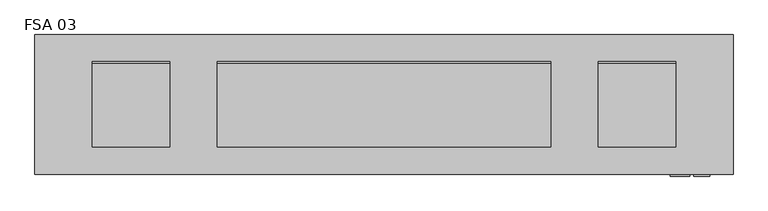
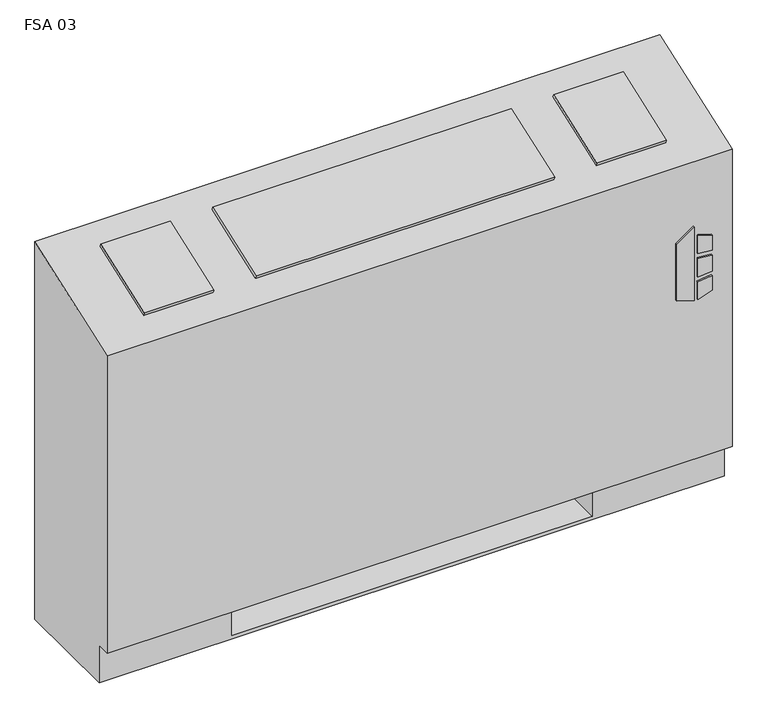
"""IFC4 building model written with IfcOpenShell, lengths in millimetres: proxy geometry, Vertical_Fan_Coil_Unit_-_FSA_-_IEC_-_2-Pipe_TS-FR_LH_2022 : FSA 03."""

from ifc_helpers import new_model, si_unit, point, frame, frame_2d, origin, place, context, project, spatial, polyline, circle_curve, trimmed, segment, composite_curve, outline, extrude, source, transform, mapped, element, save
from ifc_brep_helpers import plane_surface, revolved_surface, advanced_brep


def fsa_03_9eb38b45(model_context):
    return source(origin(), model_context, "Body", "SolidModel", [
        extrude(outline(polyline([(391.6086829, 620.7868862), (381.6606126, 652.9602728), (523.831537, 652.9602728), (500.8095309, 620.7868862), (391.6086829, 620.7868862)])), frame((0.0, 12.7, 0.0), z_axis=(0.0, 1.0, 0.0), x_axis=(0.0, 0.0, 1.0)), (0.0, 0.0, 1.0), 3.175),
        extrude(outline(polyline([(470.6079683, 659.7186058), (467.4055757, 685.8), (496.6344168, 685.8), (504.6988318, 659.7186058), (470.6079683, 659.7186058)])), frame((0.0, 12.7, 0.0), z_axis=(0.0, 1.0, 0.0), x_axis=(0.0, 0.0, 1.0)), (0.0, 0.0, 1.0), 3.175),
        extrude(outline(polyline([(418.7444414, 685.8), (415.0789404, 659.7186058), (381.6606126, 659.7186058), (390.2948498, 685.8), (418.7444414, 685.8)])), frame((0.0, 12.7, 0.0), z_axis=(0.0, 1.0, 0.0), x_axis=(0.0, 0.0, 1.0)), (0.0, 0.0, 1.0), 3.175),
        extrude(outline(polyline([(458.0596028, 685.8), (460.3414292, 659.7186058), (424.4038806, 659.7186058), (427.1451456, 685.8), (458.0596028, 685.8)])), frame((0.0, 12.7, 0.0), z_axis=(0.0, 1.0, 0.0), x_axis=(0.0, 0.0, 1.0)), (0.0, 0.0, 1.0), 3.175),
        extrude(outline(polyline([(603.25, 223.266), (603.25, 81.534), (482.6, 81.534), (482.6, 223.266), (603.25, 223.266)])), frame((0.0, 0.0, 327.025), z_axis=(0.0, 0.0, 1.0), x_axis=(1.0, 0.0, 0.0)), (0.0, 0.0, 1.0), 260.35),
        extrude(outline(composite_curve([segment(trimmed(circle_curve(frame_2d((-241.3, 130.175)), 9.525), [point((-250.825, 130.175))], [point((-231.775, 130.175))], False, "CARTESIAN"), True, "CONTINUOUS"), segment(trimmed(circle_curve(frame_2d((-241.3, 130.175)), 9.525), [point((-231.775, 130.175))], [point((-250.825, 130.175))], False, "CARTESIAN"), True, "CONTINUOUS")], self_intersect=False)), frame((0.0, 0.0, 101.6), z_axis=(0.0, 0.0, 1.0), x_axis=(1.0, 0.0, 0.0)), (0.0, 0.0, 1.0), 25.4),
        extrude(outline(polyline([(-342.9, 63.5), (-342.9, 196.85), (-177.8, 196.85), (-177.8, 63.5), (-342.9, 63.5)])), frame((0.0, 0.0, 127.0), z_axis=(0.0, 0.0, 1.0), x_axis=(1.0, 0.0, 0.0)), (0.0, 0.0, 1.0), 50.8),
        extrude(outline(polyline([(0.0, -146.0500001), (0.0, 0.0), (127.0, 0.0), (127.0, -146.0500001), (0.0, -146.0500001)])), frame((-324.993, 200.4217127, 714.3418685), z_axis=(0.0, -0.3396444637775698, 0.9405538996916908), x_axis=(1.0, 0.0, 0.0)), (0.0, 0.0, 1.0), 6.35),
        extrude(outline(polyline([(0.0, -146.0500001), (0.0, 0.0), (546.1, 0.0), (546.1, -146.0500001), (0.0, -146.0500001)])), frame((425.45, 63.0538156, 664.7367945), z_axis=(0.0, -0.33964446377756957, 0.9405538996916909), x_axis=(-1.0, 0.0, 0.0)), (0.0, 0.0, 1.0), 6.35),
        extrude(outline(polyline([(0.0, -146.0500001), (0.0, 0.0), (127.0, 0.0), (127.0, -146.0500001), (0.0, -146.0500001)])), frame((629.793, 63.0538156, 664.7367945), z_axis=(0.0, -0.3396444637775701, 0.9405538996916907), x_axis=(-1.0, 0.0, 0.0)), (0.0, 0.0, 1.0), 6.35),
        extrude(outline(composite_curve([segment(trimmed(circle_curve(frame_2d((109.347, 456.819)), 7.9375), [point((109.347, 464.7565))], [point((109.347, 448.8815))], False, "CARTESIAN"), True, "CONTINUOUS"), segment(trimmed(circle_curve(frame_2d((109.347, 456.819)), 7.9375), [point((109.347, 448.8815))], [point((109.347, 464.7565))], False, "CARTESIAN"), True, "CONTINUOUS")], self_intersect=False)), frame((-228.6, 0.0, 0.0), z_axis=(1.0, 0.0, 0.0), x_axis=(0.0, 1.0, 0.0)), (0.0, 0.0, 1.0), 50.8),
        extrude(outline(composite_curve([segment(trimmed(circle_curve(frame_2d((157.4546, 429.4632)), 7.9375), [point((157.4546, 437.4007))], [point((157.4546, 421.5257))], False, "CARTESIAN"), True, "CONTINUOUS"), segment(trimmed(circle_curve(frame_2d((157.4546, 429.4632)), 7.9375), [point((157.4546, 421.5257))], [point((157.4546, 437.4007))], False, "CARTESIAN"), True, "CONTINUOUS")], self_intersect=False)), frame((-228.6, 0.0, 0.0), z_axis=(1.0, 0.0, 0.0), x_axis=(0.0, 1.0, 0.0)), (0.0, 0.0, 1.0), 50.8),
        advanced_brep(
        [(-419.1, 244.475, 0.0), (723.9, 244.475, 0.0), (723.9, 41.275, 0.0), (-419.1, 41.275, 0.0), (-419.1, 244.475, 730.25), (723.9, 244.475, 730.25), (482.6, 244.475, 73.025), (711.2, 244.475, 73.025), (711.2, 244.475, 654.05), (482.6, 244.475, 654.05), (482.6, 244.475, 414.8650565), (511.175, 244.475, 414.8650565), (511.175, 244.475, 385.2349435), (482.6, 244.475, 385.2349435), (482.6, 244.475, 287.3375), (511.175, 244.475, 287.3375), (511.175, 244.475, 258.7625), (482.6, 244.475, 258.7625), (482.6, 244.475, 141.2875), (511.175, 244.475, 141.2875), (511.175, 244.475, 112.7125), (482.6, 244.475, 112.7125), (-177.8, 244.475, 654.05), (-406.4, 244.475, 654.05), (-406.4, 244.475, 73.025), (-177.8, 244.475, 73.025), (-177.8, 244.475, 112.7125), (-206.375, 244.475, 112.7125), (-206.375, 244.475, 141.2875), (-177.8, 244.475, 141.2875), (-177.8, 244.475, 258.7625), (-206.375, 244.475, 258.7625), (-206.375, 244.475, 287.3375), (-177.8, 244.475, 287.3375), (-177.8, 244.475, 385.2349435), (-206.375, 244.475, 385.2349435), (-206.375, 244.475, 414.8650565), (-177.8, 244.475, 414.8650565), (500.8626, 244.475, 127.0), (489.7374, 244.475, 127.0), (500.8626, 244.475, 400.05), (489.7374, 244.475, 400.05), (500.8626, 244.475, 273.05), (489.7374, 244.475, 273.05), (-184.9374, 244.475, 127.0), (-196.0626, 244.475, 127.0), (-184.9374, 244.475, 273.05), (-196.0626, 244.475, 273.05), (-184.9374, 244.475, 400.05), (-196.0626, 244.475, 400.05), (-419.1, 41.275, 73.025), (-419.1, 15.875, 73.025), (-419.1, 15.875, 647.7), (723.9, 15.875, 73.025), (723.9, 15.875, 647.7), (723.9, 41.275, 73.025), (-177.8, 41.275, 73.025), (-177.8, 225.425, 73.025), (482.6, 225.425, 73.025), (482.6, 41.275, 73.025), (482.6, 41.275, 6.35), (-177.8, 41.275, 6.35), (482.6, 41.275, 654.05), (711.2, 41.275, 654.05), (711.2, 41.275, 73.025), (482.6, 41.275, 73.025), (-177.8, 41.275, 654.05), (-177.8, 41.275, 73.025), (-406.4, 41.275, 73.025), (-406.4, 41.275, 654.05), (482.6, 225.425, 73.025), (482.6, 238.125, 112.7125), (482.6, 238.125, 141.2875), (482.6, 238.125, 258.7625), (482.6, 238.125, 287.3375), (482.6, 238.125, 385.2349435), (482.6, 238.125, 414.8650565), (-177.8, 225.425, 73.025), (-177.8, 238.125, 414.8650565), (-177.8, 238.125, 385.2349435), (-177.8, 238.125, 287.3375), (-177.8, 238.125, 258.7625), (-177.8, 238.125, 141.2875), (-177.8, 238.125, 112.7125), (-177.8, 225.425, 6.35), (482.6, 225.425, 6.35), (511.175, 238.125, 112.7125), (511.175, 238.125, 141.2875), (489.7374, 238.125, 127.0), (500.8626, 238.125, 127.0), (511.175, 238.125, 258.7625), (511.175, 238.125, 287.3375), (489.7374, 238.125, 273.05), (500.8626, 238.125, 273.05), (511.175, 238.125, 385.2349435), (511.175, 238.125, 414.8650565), (489.7374, 238.125, 400.05), (500.8626, 238.125, 400.05), (-206.375, 238.125, 141.2875), (-206.375, 238.125, 112.7125), (-196.0626, 238.125, 127.0), (-184.9374, 238.125, 127.0), (-206.375, 238.125, 287.3375), (-206.375, 238.125, 258.7625), (-196.0626, 238.125, 273.05), (-184.9374, 238.125, 273.05), (-206.375, 238.125, 414.8650565), (-206.375, 238.125, 385.2349435), (-196.0626, 238.125, 400.05), (-184.9374, 238.125, 400.05)],
        [
            (0, 1),
            (1, 2),
            (2, 3),
            (3, 0),
            (0, 4),
            (4, 5),
            (5, 1),
            (6, 7),
            (7, 8),
            (8, 9),
            (9, 10),
            (10, 11),
            (11, 12),
            (12, 13),
            (13, 14),
            (14, 15),
            (15, 16),
            (16, 17),
            (17, 18),
            (18, 19),
            (19, 20),
            (20, 21),
            (21, 6),
            (22, 23),
            (23, 24),
            (24, 25),
            (25, 26),
            (26, 27),
            (27, 28),
            (28, 29),
            (29, 30),
            (30, 31),
            (31, 32),
            (32, 33),
            (33, 34),
            (34, 35),
            (35, 36),
            (36, 37),
            (37, 22),
            (38, 39, circle_curve(frame((495.3, 244.475, 127.0), z_axis=(0.0, -1.0, 0.0), x_axis=(-1.0, 0.0, 0.0)), 5.5626)),
            (39, 38, circle_curve(frame((495.3, 244.475, 127.0), z_axis=(0.0, -1.0, 0.0), x_axis=(-1.0, 0.0, 0.0)), 5.5626)),
            (40, 41, circle_curve(frame((495.3, 244.475, 400.05), z_axis=(0.0, -1.0, 0.0), x_axis=(-1.0, 0.0, 0.0)), 5.5626)),
            (41, 40, circle_curve(frame((495.3, 244.475, 400.05), z_axis=(0.0, -1.0, 0.0), x_axis=(-1.0, 0.0, 0.0)), 5.5626)),
            (42, 43, circle_curve(frame((495.3, 244.475, 273.05), z_axis=(0.0, -1.0, 0.0), x_axis=(-1.0, 0.0, 0.0)), 5.5626)),
            (43, 42, circle_curve(frame((495.3, 244.475, 273.05), z_axis=(0.0, -1.0, 0.0), x_axis=(-1.0, 0.0, 0.0)), 5.5626)),
            (44, 45, circle_curve(frame((-190.5, 244.475, 127.0), z_axis=(0.0, -1.0, 0.0), x_axis=(-1.0, 0.0, 0.0)), 5.5626)),
            (45, 44, circle_curve(frame((-190.5, 244.475, 127.0), z_axis=(0.0, -1.0, 0.0), x_axis=(-1.0, 0.0, 0.0)), 5.5626)),
            (46, 47, circle_curve(frame((-190.5, 244.475, 273.05), z_axis=(0.0, -1.0, 0.0), x_axis=(-1.0, 0.0, 0.0)), 5.5626)),
            (47, 46, circle_curve(frame((-190.5, 244.475, 273.05), z_axis=(0.0, -1.0, 0.0), x_axis=(-1.0, 0.0, 0.0)), 5.5626)),
            (48, 49, circle_curve(frame((-190.5, 244.475, 400.05), z_axis=(0.0, -1.0, 0.0), x_axis=(-1.0, 0.0, 0.0)), 5.5626)),
            (49, 48, circle_curve(frame((-190.5, 244.475, 400.05), z_axis=(0.0, -1.0, 0.0), x_axis=(-1.0, 0.0, 0.0)), 5.5626)),
            (3, 50),
            (50, 51),
            (51, 52),
            (52, 4),
            (51, 53),
            (53, 54),
            (54, 52),
            (5, 54),
            (53, 55),
            (55, 2),
            (50, 56),
            (56, 57),
            (57, 58),
            (58, 59),
            (59, 55),
            (59, 60),
            (60, 61),
            (61, 56),
            (62, 63),
            (63, 64),
            (64, 65),
            (65, 62),
            (66, 67),
            (67, 68),
            (68, 69),
            (69, 66),
            (65, 70),
            (70, 6),
            (21, 71),
            (71, 72),
            (72, 18),
            (17, 73),
            (73, 74),
            (74, 14),
            (13, 75),
            (75, 76),
            (76, 10),
            (9, 62),
            (64, 7),
            (63, 8),
            (69, 23),
            (22, 66),
            (68, 24),
            (67, 77),
            (77, 25),
            (37, 78),
            (78, 79),
            (79, 34),
            (33, 80),
            (80, 81),
            (81, 30),
            (29, 82),
            (82, 83),
            (83, 26),
            (57, 84),
            (84, 85),
            (85, 58),
            (85, 60),
            (84, 61),
            (71, 86),
            (86, 87),
            (87, 72),
            (88, 89, circle_curve(frame((495.3, 238.125, 127.0), z_axis=(0.0, 1.0, 0.0), x_axis=(-1.0, 0.0, 0.0)), 5.5626)),
            (89, 88, circle_curve(frame((495.3, 238.125, 127.0), z_axis=(0.0, 1.0, 0.0), x_axis=(-1.0, 0.0, 0.0)), 5.5626)),
            (73, 90),
            (90, 91),
            (91, 74),
            (92, 93, circle_curve(frame((495.3, 238.125, 273.05), z_axis=(0.0, 1.0, 0.0), x_axis=(-1.0, 0.0, 0.0)), 5.5626)),
            (93, 92, circle_curve(frame((495.3, 238.125, 273.05), z_axis=(0.0, 1.0, 0.0), x_axis=(-1.0, 0.0, 0.0)), 5.5626)),
            (75, 94),
            (94, 95),
            (95, 76),
            (96, 97, circle_curve(frame((495.3, 238.125, 400.05), z_axis=(0.0, 1.0, 0.0), x_axis=(-1.0, 0.0, 0.0)), 5.5626)),
            (97, 96, circle_curve(frame((495.3, 238.125, 400.05), z_axis=(0.0, 1.0, 0.0), x_axis=(-1.0, 0.0, 0.0)), 5.5626)),
            (98, 99),
            (99, 83),
            (82, 98),
            (100, 101, circle_curve(frame((-190.5, 238.125, 127.0), z_axis=(0.0, 1.0, 0.0), x_axis=(-1.0, 0.0, 0.0)), 5.5626)),
            (101, 100, circle_curve(frame((-190.5, 238.125, 127.0), z_axis=(0.0, 1.0, 0.0), x_axis=(-1.0, 0.0, 0.0)), 5.5626)),
            (102, 103),
            (103, 81),
            (80, 102),
            (104, 105, circle_curve(frame((-190.5, 238.125, 273.05), z_axis=(0.0, 1.0, 0.0), x_axis=(-1.0, 0.0, 0.0)), 5.5626)),
            (105, 104, circle_curve(frame((-190.5, 238.125, 273.05), z_axis=(0.0, 1.0, 0.0), x_axis=(-1.0, 0.0, 0.0)), 5.5626)),
            (106, 107),
            (107, 79),
            (78, 106),
            (108, 109, circle_curve(frame((-190.5, 238.125, 400.05), z_axis=(0.0, 1.0, 0.0), x_axis=(-1.0, 0.0, 0.0)), 5.5626)),
            (109, 108, circle_curve(frame((-190.5, 238.125, 400.05), z_axis=(0.0, 1.0, 0.0), x_axis=(-1.0, 0.0, 0.0)), 5.5626)),
            (87, 19),
            (86, 20),
            (91, 15),
            (90, 16),
            (95, 11),
            (94, 12),
            (28, 98),
            (99, 27),
            (32, 102),
            (103, 31),
            (36, 106),
            (107, 35),
            (88, 39),
            (38, 89),
            (96, 41),
            (40, 97),
            (92, 43),
            (42, 93),
            (100, 45),
            (44, 101),
            (104, 47),
            (46, 105),
            (108, 49),
            (48, 109),
        ],
        [
            plane_surface(frame((-419.1, 244.475, 0.0), z_axis=(0.0, 0.0, -1.0), x_axis=(1.0, 0.0, 0.0))),
            plane_surface(frame((723.9, 244.475, 730.25), z_axis=(0.0, 1.0, 0.0), x_axis=(0.0, 0.0, -1.0))),
            plane_surface(frame((-419.1, 244.475, 730.25), z_axis=(-1.0, 0.0, 0.0), x_axis=(0.0, 0.0, -1.0))),
            plane_surface(frame((-419.1, 15.875, 730.25), z_axis=(0.0, -1.0, 0.0), x_axis=(0.0, 0.0, -1.0))),
            plane_surface(frame((723.9, 15.875, 730.25), z_axis=(1.0, 0.0, 0.0), x_axis=(0.0, 0.0, -1.0))),
            plane_surface(frame((-419.1, 15.875, 73.025), z_axis=(0.0, 0.0, -1.0), x_axis=(1.0, 0.0, 0.0))),
            plane_surface(frame((-419.1, 41.275, 73.025), z_axis=(0.0, -1.0, 0.0), x_axis=(1.0, 0.0, 0.0))),
            plane_surface(frame((482.6, 41.275, 654.05), z_axis=(0.0, 1.0, 0.0), x_axis=(0.0, 0.0, -1.0))),
            plane_surface(frame((482.6, 41.275, 654.05), z_axis=(1.0, 0.0, 0.0), x_axis=(0.0, 1.0, 0.0))),
            plane_surface(frame((482.6, 41.275, 73.025), z_axis=(0.0, 0.0, 1.0), x_axis=(0.0, 1.0, 0.0))),
            plane_surface(frame((711.2, 41.275, 73.025), z_axis=(-1.0, 0.0, 0.0), x_axis=(0.0, 1.0, 0.0))),
            plane_surface(frame((711.2, 41.275, 654.05), z_axis=(0.0, 0.0, -1.0), x_axis=(0.0, 1.0, 0.0))),
            plane_surface(frame((-177.8, 41.275, 654.05), z_axis=(0.0, 0.0, -1.0), x_axis=(0.0, 1.0, 0.0))),
            plane_surface(frame((-406.4, 41.275, 654.05), z_axis=(1.0, 0.0, 0.0), x_axis=(0.0, 1.0, 0.0))),
            plane_surface(frame((-406.4, 41.275, 73.025), z_axis=(0.0, 0.0, 1.0), x_axis=(0.0, 1.0, 0.0))),
            plane_surface(frame((-177.8, 41.275, 73.025), z_axis=(-1.0, 0.0, 0.0), x_axis=(0.0, 1.0, 0.0))),
            plane_surface(frame((482.6, 225.425, 73.025), z_axis=(0.0, -1.0, 0.0), x_axis=(0.0, 0.0, -1.0))),
            plane_surface(frame((482.6, 225.425, 73.025), z_axis=(-1.0, 0.0, 0.0), x_axis=(0.0, -1.0, 0.0))),
            plane_surface(frame((482.6, 225.425, 6.35), z_axis=(0.0, 0.0, 1.0), x_axis=(0.0, -1.0, 0.0))),
            plane_surface(frame((-177.8, 225.425, 6.35), z_axis=(1.0, 0.0, 0.0), x_axis=(0.0, -1.0, 0.0))),
            plane_surface(frame((511.175, 238.125, 141.2875), z_axis=(0.0, -1.0, 0.0), x_axis=(-1.0, 0.0, 0.0))),
            plane_surface(frame((482.6, 244.475, 141.2875), z_axis=(0.0, 0.0, 1.0), x_axis=(0.0, -1.0, 0.0))),
            plane_surface(frame((511.175, 244.475, 141.2875), z_axis=(1.0, 0.0, 0.0), x_axis=(0.0, -1.0, 0.0))),
            plane_surface(frame((511.175, 244.475, 112.7125), z_axis=(0.0, 0.0, -1.0), x_axis=(0.0, -1.0, 0.0))),
            plane_surface(frame((482.6, 244.475, 287.3375), z_axis=(0.0, 0.0, 1.0), x_axis=(0.0, -1.0, 0.0))),
            plane_surface(frame((511.175, 244.475, 287.3375), z_axis=(1.0, 0.0, 0.0), x_axis=(0.0, -1.0, 0.0))),
            plane_surface(frame((511.175, 244.475, 258.7625), z_axis=(0.0, 0.0, -1.0), x_axis=(0.0, -1.0, 0.0))),
            plane_surface(frame((482.6, 244.475, 414.8650565), z_axis=(0.0, 0.0, 1.0), x_axis=(0.0, -1.0, 0.0))),
            plane_surface(frame((511.175, 244.475, 414.8650565), z_axis=(1.0, 0.0, 0.0), x_axis=(0.0, -1.0, 0.0))),
            plane_surface(frame((511.175, 244.475, 385.2349435), z_axis=(0.0, 0.0, -1.0), x_axis=(0.0, -1.0, 0.0))),
            plane_surface(frame((-206.375, 244.475, 141.2875), z_axis=(0.0, 0.0, 1.0), x_axis=(0.0, -1.0, 0.0))),
            plane_surface(frame((-177.8, 244.475, 112.7125), z_axis=(0.0, 0.0, -1.0), x_axis=(0.0, -1.0, 0.0))),
            plane_surface(frame((-206.375, 244.475, 112.7125), z_axis=(-1.0, 0.0, 0.0), x_axis=(0.0, -1.0, 0.0))),
            plane_surface(frame((-206.375, 244.475, 287.3375), z_axis=(0.0, 0.0, 1.0), x_axis=(0.0, -1.0, 0.0))),
            plane_surface(frame((-177.8, 244.475, 258.7625), z_axis=(0.0, 0.0, -1.0), x_axis=(0.0, -1.0, 0.0))),
            plane_surface(frame((-206.375, 244.475, 258.7625), z_axis=(-1.0, 0.0, 0.0), x_axis=(0.0, -1.0, 0.0))),
            plane_surface(frame((-206.375, 244.475, 414.8650565), z_axis=(0.0, 0.0, 1.0), x_axis=(0.0, -1.0, 0.0))),
            plane_surface(frame((-177.8, 244.475, 385.2349435), z_axis=(0.0, 0.0, -1.0), x_axis=(0.0, -1.0, 0.0))),
            plane_surface(frame((-206.375, 244.475, 385.2349435), z_axis=(-1.0, 0.0, 0.0), x_axis=(0.0, -1.0, 0.0))),
            revolved_surface(polyline([(489.73740000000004, 238.125, 127.0), (489.73740000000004, 244.475, 127.0)]), (495.3, 244.475, 127.0), (0.0, -1.0, 0.0)),
            revolved_surface(polyline([(489.73740000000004, 238.125, 400.05), (489.73740000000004, 244.475, 400.05)]), (495.3, 244.475, 400.05), (0.0, -1.0, 0.0)),
            revolved_surface(polyline([(489.73740000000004, 238.125, 273.05), (489.73740000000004, 244.475, 273.05)]), (495.3, 244.475, 273.05), (0.0, -1.0, 0.0)),
            revolved_surface(polyline([(-196.0626, 238.125, 127.0), (-196.0626, 244.475, 127.0)]), (-190.5, 244.475, 127.0), (0.0, -1.0, 0.0)),
            revolved_surface(polyline([(-196.0626, 238.125, 273.05), (-196.0626, 244.475, 273.05)]), (-190.5, 244.475, 273.05), (0.0, -1.0, 0.0)),
            revolved_surface(polyline([(-196.0626, 238.125, 400.05), (-196.0626, 244.475, 400.05)]), (-190.5, 244.475, 400.05), (0.0, -1.0, 0.0)),
            plane_surface(frame((-419.1, 244.475, 730.25), z_axis=(0.0, -0.33964446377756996, 0.9405538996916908), x_axis=(1.0, 0.0, 0.0))),
        ],
        [
            (0, [[1, 2, 3, 4]]),
            (1, [[-1, 5, 6, 7], [8, 9, 10, 11, 12, 13, 14, 15, 16, 17, 18, 19, 20, 21, 22, 23], [24, 25, 26, 27, 28, 29, 30, 31, 32, 33, 34, 35, 36, 37, 38, 39], [40, 41], [42, 43], [44, 45], [46, 47], [48, 49], [50, 51]]),
            (2, [[-5, -4, 52, 53, 54, 55]]),
            (3, [[56, 57, 58, -54]]),
            (4, [[-7, 59, -57, 60, 61, -2]]),
            (5, [[-53, 62, 63, 64, 65, 66, -60, -56]]),
            (6, [[-3, -61, -66, 67, 68, 69, -62, -52]]),
            (7, [[70, 71, 72, 73]]),
            (7, [[74, 75, 76, 77]]),
            (8, [[-73, 78, 79, -23, 80, 81, 82, -19, 83, 84, 85, -15, 86, 87, 88, -11, 89]]),
            (9, [[-72, 90, -8, -79, -78]]),
            (10, [[-71, 91, -9, -90]]),
            (11, [[-70, -89, -10, -91]]),
            (12, [[-77, 92, -24, 93]]),
            (13, [[-76, 94, -25, -92]]),
            (14, [[-75, 95, 96, -26, -94]]),
            (15, [[-74, -93, -39, 97, 98, 99, -35, 100, 101, 102, -31, 103, 104, 105, -27, -96, -95]]),
            (16, [[-64, 106, 107, 108]]),
            (17, [[-108, 109, -67, -65]]),
            (18, [[-107, 110, -68, -109]]),
            (19, [[-106, -63, -69, -110]]),
            (20, [[111, 112, 113, -81], [114, 115]]),
            (20, [[116, 117, 118, -84], [119, 120]]),
            (20, [[121, 122, 123, -87], [124, 125]]),
            (20, [[126, 127, -104, 128], [129, 130]]),
            (20, [[131, 132, -101, 133], [134, 135]]),
            (20, [[136, 137, -98, 138], [139, 140]]),
            (21, [[-113, 141, -20, -82]]),
            (22, [[-112, 142, -21, -141]]),
            (23, [[-111, -80, -22, -142]]),
            (24, [[-118, 143, -16, -85]]),
            (25, [[-117, 144, -17, -143]]),
            (26, [[-116, -83, -18, -144]]),
            (27, [[-123, 145, -12, -88]]),
            (28, [[-122, 146, -13, -145]]),
            (29, [[-121, -86, -14, -146]]),
            (30, [[-128, -103, -30, 147]]),
            (31, [[-127, 148, -28, -105]]),
            (32, [[-126, -147, -29, -148]]),
            (33, [[-133, -100, -34, 149]]),
            (34, [[-132, 150, -32, -102]]),
            (35, [[-131, -149, -33, -150]]),
            (36, [[-138, -97, -38, 151]]),
            (37, [[-137, 152, -36, -99]]),
            (38, [[-136, -151, -37, -152]]),
            (39, [[153, -40, 154, -114]]),
            (39, [[-153, -115, -154, -41]]),
            (40, [[155, -42, 156, -124]]),
            (40, [[-155, -125, -156, -43]]),
            (41, [[157, -44, 158, -119]]),
            (41, [[-157, -120, -158, -45]]),
            (42, [[159, -46, 160, -129]]),
            (42, [[-159, -130, -160, -47]]),
            (43, [[161, -48, 162, -134]]),
            (43, [[-161, -135, -162, -49]]),
            (44, [[163, -50, 164, -139]]),
            (44, [[-163, -140, -164, -51]]),
            (45, [[-6, -55, -58, -59]]),
        ],
    ),
    ])


if __name__ == "__main__":
    model = new_model("IFC4")
    model_context = context("Model", 3, world=origin())
    ifc_project = project(units=[si_unit("LENGTHUNIT", "METRE", prefix="MILLI")], contexts=[model_context])
    site = spatial("IfcSite", under=ifc_project)
    building = spatial("IfcBuilding", under=site)
    placement = place(None, origin())
    fsa_03_shape = fsa_03_9eb38b45(model_context)
    element("IfcBuildingElementProxy", 1, Name="Vertical_Fan_Coil_Unit_-_FSA_-_IEC_-_2-Pipe_TS-FR_LH_2022 : FSA 03", ObjectType="Vertical_Fan_Coil_Unit_-_FSA_-_IEC_-_2-Pipe_TS-FR_LH_2022 : FSA 03", at=placement, inside=building, context=model_context, shape_type="MappedRepresentation", body=[
        mapped(fsa_03_shape, transform((0.0, 0.0, 0.0), x_axis=(1.0, 0.0, 0.0), y_axis=(0.0, 1.0, 0.0), z_axis=(0.0, 0.0, 1.0))),
    ])
    save(model, "model.ifc")
